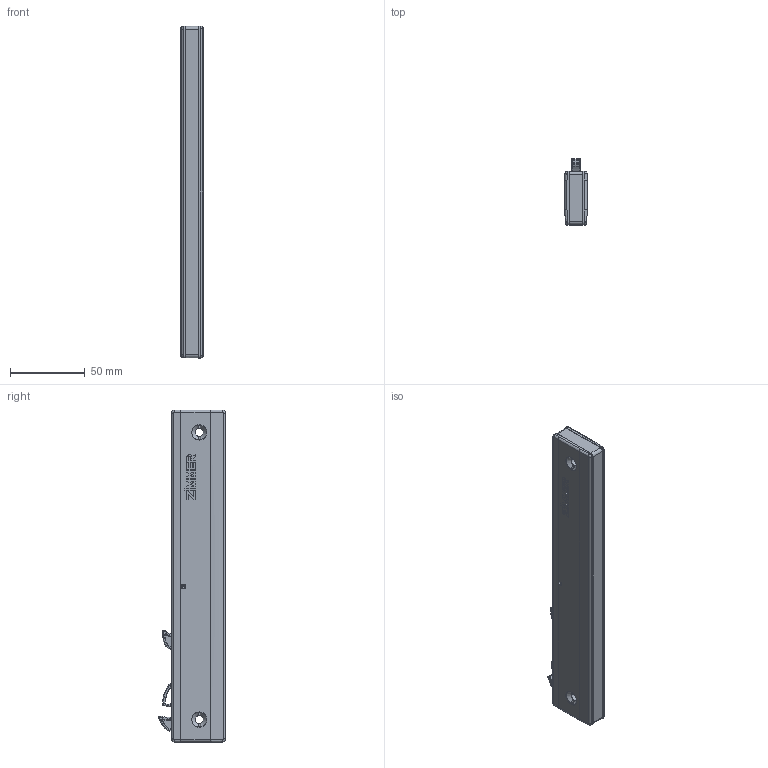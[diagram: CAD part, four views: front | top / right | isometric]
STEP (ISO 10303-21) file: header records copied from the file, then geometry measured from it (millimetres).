
FILE_DESCRIPTION((''),'2;1');
FILE_NAME('ASM0004_SW0001','2020-07-13T',('pcammann'),(''),'CREO PARAMETRIC BY PTC INC, 2017020','CREO PARAMETRIC BY PTC INC, 2017020','');
FILE_SCHEMA(('AUTOMOTIVE_DESIGN { 1 0 10303 214 1 1 1 1 }'));
Products named in the file (1): ASM0004_SW0001
Bounding box: 15 x 44.7 x 222 mm (x, y, z)
Volume: 53362.8 mm3; surface area: 65310.9 mm2
Topology: 2 solids, 2 shells, 5462 faces, 12792 edges, 7352 vertices
Faces by surface type: cylinder 2099, bspline 1135, plane 1048, torus 784, sphere 339, cone 51, extrusion 6
Entity records: 286880 total; most frequent: CARTESIAN_POINT 90516, ORIENTED_EDGE 25564, DIRECTION 23766, PRESENTATION_STYLE_ASSIGNMENT 18252, STYLED_ITEM 12790, CURVE_STYLE 12788, EDGE_CURVE 12782, AXIS2_PLACEMENT_3D 9546
